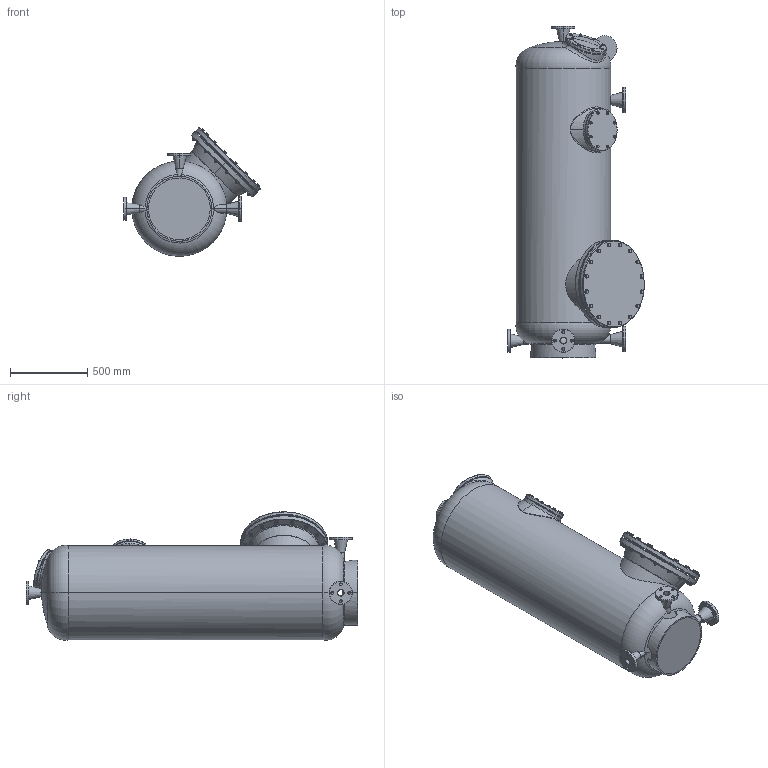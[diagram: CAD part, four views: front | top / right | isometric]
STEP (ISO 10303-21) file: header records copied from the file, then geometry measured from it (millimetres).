
FILE_DESCRIPTION (( 'STEP AP214' ), '1' );
FILE_NAME ('mediterran60c_.STEP', '2020-11-03T10:42:55', ( '' ), ( '' ), 'SwSTEP 2.0', 'SolidWorks 2019', '' );
FILE_SCHEMA (( 'AUTOMOTIVE_DESIGN' ));
Length unit declared in the file: millimetre
Products named in the file (1): mediterran60c_
Bounding box: 886.13 x 2151.25 x 832.49 mm (x, y, z)
Surface area: 6882799.3 mm2 (no closed solid volume)
Topology: 0 solids, 128 shells, 1029 faces, 2552 edges, 1598 vertices
Faces by surface type: plane 430, cone 285, cylinder 220, torus 80, bspline 8, sphere 6
Entity records: 75668 total; most frequent: CARTESIAN_POINT 45037, ORIENTED_EDGE 4367, EDGE_CURVE 2552, DIRECTION 2515, B_SPLINE_CURVE_WITH_KNOTS 2281, VERTEX_POINT 1598, AXIS2_PLACEMENT_3D 1222, EDGE_LOOP 1084
